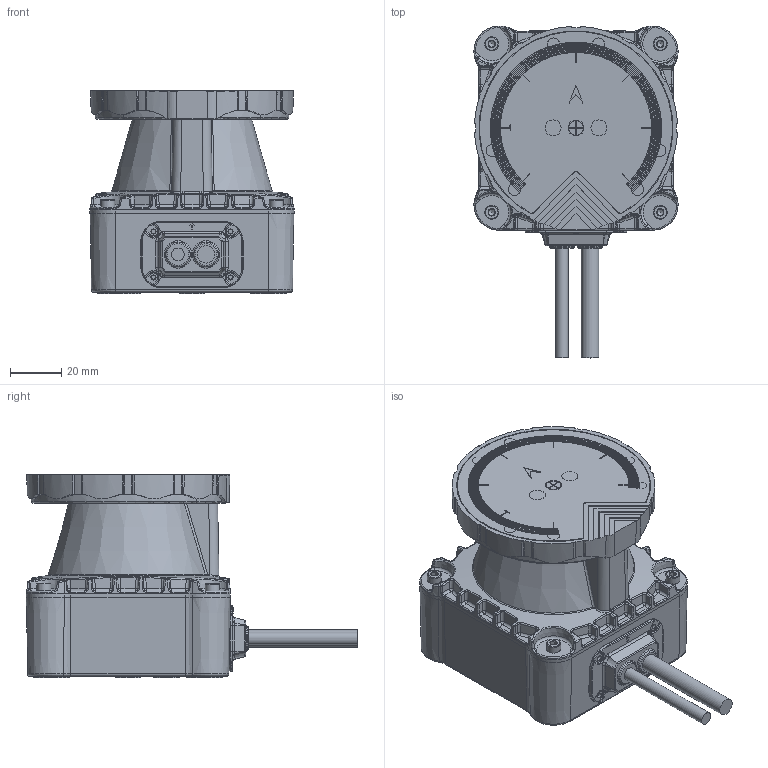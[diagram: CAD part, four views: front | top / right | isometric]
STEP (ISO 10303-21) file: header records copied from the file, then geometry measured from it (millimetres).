
FILE_DESCRIPTION(/* description */ (''),/* implementation_level */ '2;1');
FILE_NAME(/* name */ 'SH_LIDAR_stp_stp.stp',/* time_stamp */ '2025-03-26T11:42:56+08:00',/* author */ (''),/* organization */ (''),/* preprocessor_version */ 'ST-DEVELOPER v14',/* originating_system */ 'SIEMENS PLM Software NX 8.0',/* authorisation */ '');
FILE_SCHEMA (('AUTOMOTIVE_DESIGN { 1 0 10303 214 3 1 1 1 }'));
Length unit declared in the file: millimetre
Products named in the file (1): 34737B9C9FF2pobv
Bounding box: 80 x 130 x 79.7 mm (x, y, z)
Volume: 116853.5 mm3; surface area: 88356.2 mm2
Topology: 8 solids, 10 shells, 4586 faces, 11390 edges, 7174 vertices
Faces by surface type: plane 2482, cone 550, bspline 482, cylinder 469, extrusion 274, torus 222, sphere 107
Full cylindrical faces by diameter (mm): 1.25 x2, 1.45 x4, 1.6 x4, 2 x20, 2.5 x4, 2.874 x4, 3 x7, 4.2 x4, 5 x1, 5.5 x4, 6.2 x1, 6.8 x1, 10 x2, 14 x4
Entity records: 169340 total; most frequent: CARTESIAN_POINT 48976, ORIENTED_EDGE 22108, DIRECTION 19280, EDGE_CURVE 11054, VERTEX_POINT 7099, VECTOR 6730, LINE 6456, AXIS2_PLACEMENT_3D 6275
